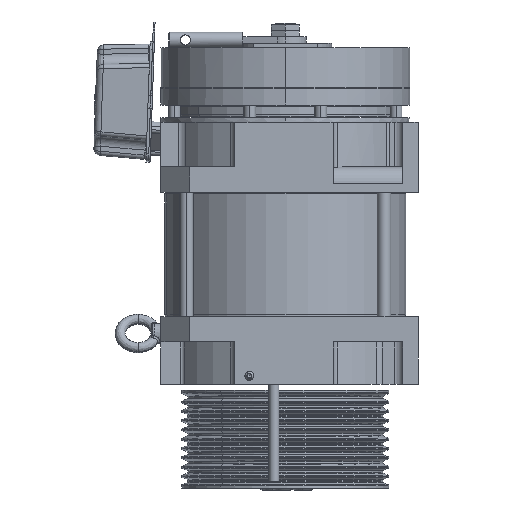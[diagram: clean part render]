
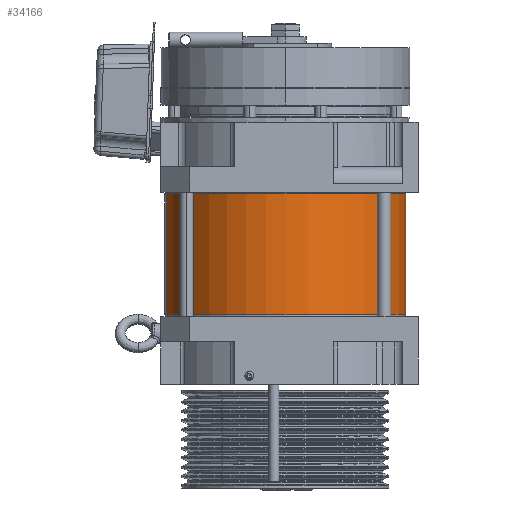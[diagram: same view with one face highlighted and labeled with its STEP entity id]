
A CAD part, left-side view. The second image highlights one B-rep face of the part: STEP entity #34166.
In plain terms, the highlighted cylindrical face has radius 142.5 mm (diameter 285 mm), a partial arc.
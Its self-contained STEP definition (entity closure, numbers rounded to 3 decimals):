
#732 = CARTESIAN_POINT ( 'NONE',  ( 0., 0., 169. ) ) ;
#2030 = AXIS2_PLACEMENT_3D ( 'NONE', #17904, #2563, #18075 ) ;
#2103 = EDGE_CURVE ( 'NONE', #23911, #10617, #19811, .T. ) ;
#2563 = DIRECTION ( 'NONE',  ( 0., 0., -1. ) ) ;
#3588 = EDGE_CURVE ( 'NONE', #9905, #16856, #14867, .T. ) ;
#4153 = DIRECTION ( 'NONE',  ( 0., 0., 1. ) ) ;
#5124 = CARTESIAN_POINT ( 'NONE',  ( 142.5, 0., 26. ) ) ;
#9623 = CARTESIAN_POINT ( 'NONE',  ( 0., 0., 26. ) ) ;
#9905 = VERTEX_POINT ( 'NONE', #19007 ) ;
#10617 = VERTEX_POINT ( 'NONE', #5124 ) ;
#14534 = ORIENTED_EDGE ( 'NONE', *, *, #22893, .F. ) ;
#14867 = LINE ( 'NONE', #40212, #33139 ) ;
#16856 = VERTEX_POINT ( 'NONE', #39310 ) ;
#16917 = ORIENTED_EDGE ( 'NONE', *, *, #26076, .F. ) ;
#17122 = DIRECTION ( 'NONE',  ( -1., 0., 0. ) ) ;
#17904 = CARTESIAN_POINT ( 'NONE',  ( 0., 0., 195. ) ) ;
#18075 = DIRECTION ( 'NONE',  ( -1., 0., 0. ) ) ;
#18268 = ORIENTED_EDGE ( 'NONE', *, *, #2103, .F. ) ;
#19007 = CARTESIAN_POINT ( 'NONE',  ( -142.5, 0., 169. ) ) ;
#19811 = LINE ( 'NONE', #44827, #49668 ) ;
#20249 = AXIS2_PLACEMENT_3D ( 'NONE', #732, #4153, #24286 ) ;
#21222 = CARTESIAN_POINT ( 'NONE',  ( 142.5, 0., 169. ) ) ;
#22893 = EDGE_CURVE ( 'NONE', #9905, #23911, #29133, .T. ) ;
#23911 = VERTEX_POINT ( 'NONE', #21222 ) ;
#24286 = DIRECTION ( 'NONE',  ( 1., 0., 0. ) ) ;
#24598 = AXIS2_PLACEMENT_3D ( 'NONE', #9623, #36876, #17122 ) ;
#26076 = EDGE_CURVE ( 'NONE', #10617, #16856, #26773, .T. ) ;
#26773 = CIRCLE ( 'NONE', #24598, 142.5 ) ;
#29133 = CIRCLE ( 'NONE', #20249, 142.5 ) ;
#30355 = EDGE_LOOP ( 'NONE', ( #18268, #14534, #36356, #16917 ) ) ;
#33139 = VECTOR ( 'NONE', #43948, 1000. ) ;
#33766 = FACE_OUTER_BOUND ( 'NONE', #30355, .T. ) ;
#34166 = ADVANCED_FACE ( 'NONE', ( #33766 ), #42907, .T. ) ;
#36356 = ORIENTED_EDGE ( 'NONE', *, *, #3588, .T. ) ;
#36876 = DIRECTION ( 'NONE',  ( 0., 0., -1. ) ) ;
#39310 = CARTESIAN_POINT ( 'NONE',  ( -142.5, 0., 26. ) ) ;
#40212 = CARTESIAN_POINT ( 'NONE',  ( -142.5, 0., 195. ) ) ;
#42907 = CYLINDRICAL_SURFACE ( 'NONE', #2030, 142.5 ) ;
#43948 = DIRECTION ( 'NONE',  ( 0., 0., -1. ) ) ;
#44827 = CARTESIAN_POINT ( 'NONE',  ( 142.5, 0., 195. ) ) ;
#49396 = DIRECTION ( 'NONE',  ( 0., 0., -1. ) ) ;
#49668 = VECTOR ( 'NONE', #49396, 1000. ) ;
